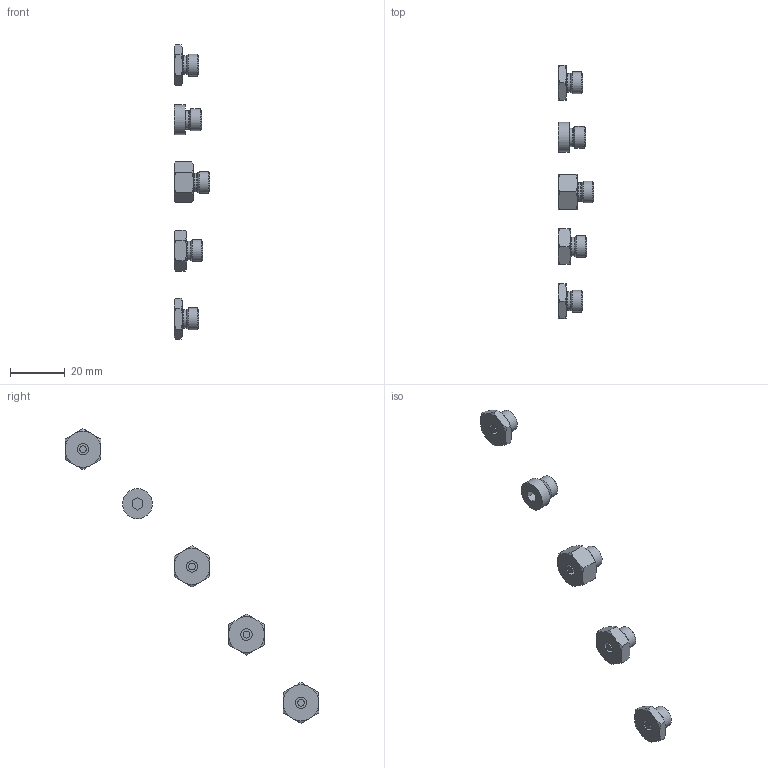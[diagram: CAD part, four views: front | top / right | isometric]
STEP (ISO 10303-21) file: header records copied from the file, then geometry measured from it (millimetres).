
FILE_DESCRIPTION(('Bauteilbeschreibung','HiCAD-Model','HiCAD-STEP-TRANSLATION','Bauteilbeschreibung'),'2;1');
FILE_NAME('K:/STEP_DXF/HB_HC.STP','2006-05-18T17:48:44+00:00',('Konstrukteur'),('Konstrukteur Firma GmbH'),'HiCAD3 V1210 STEP 1.6.2005','HiCAD3 V1210','confidential');
FILE_SCHEMA(('AUTOMOTIVE_DESIGN { 1 2 10303 214 0 1 1 1 }'));
Length unit declared in the file: millimetre
Products named in the file (11): HB_HC; HB4_5__253_8000; A86115F3; HB0__239_2033; F134825D; HB8_5__253_8002; B4DFF981; HB6__253_8001; CF9A8A47; HC4_5__253_8017; A2680C4A
Assembly tree (10 placements, depth 3):
  HB_HC
    HB4_5__253_8000
      A86115F3
    HB0__239_2033
      F134825D
    HB8_5__253_8002
      B4DFF981
    HB6__253_8001
      CF9A8A47
    HC4_5__253_8017
      A2680C4A
Bounding box: 13 x 93 x 108.04 mm (x, y, z)
Volume: 4099.9 mm3; surface area: 3419 mm2
Topology: 5 solids, 5 shells, 140 faces, 336 edges, 220 vertices
Faces by surface type: cone 58, plane 54, cylinder 19, torus 9
Full cylindrical faces by diameter (mm): 2.5 x4, 4.2 x4, 6.8 x5, 8 x5, 11 x1
Entity records: 8337 total; most frequent: CARTESIAN_POINT 2576, DIRECTION 612, ORIENTED_EDGE 574, COLOUR_RGB 432, PRESENTATION_STYLE_ASSIGNMENT 432, OVER_RIDING_STYLED_ITEM 427, CURVE_STYLE 287, DRAUGHTING_PRE_DEFINED_CURVE_FONT 287
